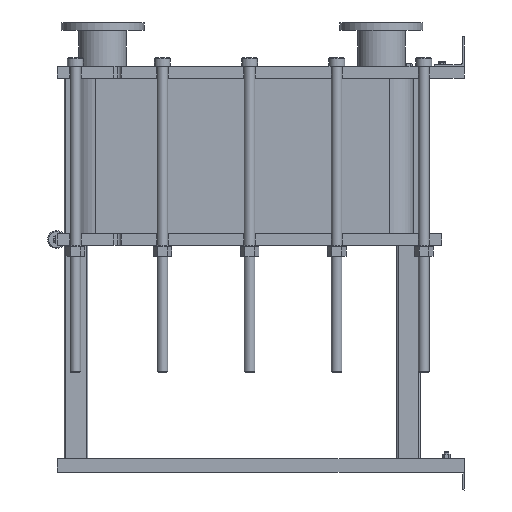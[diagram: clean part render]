
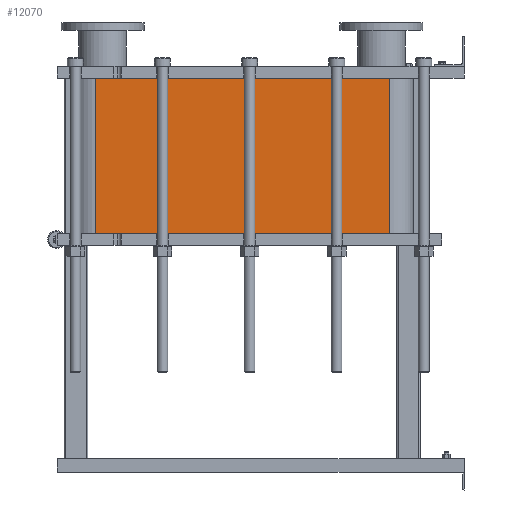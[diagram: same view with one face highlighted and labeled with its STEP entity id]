
A CAD part, left-side view. The second image highlights one B-rep face of the part: STEP entity #12070.
In plain terms, the highlighted planar face has unit normal (-1, 0, 0).
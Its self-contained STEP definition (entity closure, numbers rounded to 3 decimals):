
#1064=LINE('',#21140,#2164);
#1065=LINE('',#21144,#2165);
#1066=LINE('',#21146,#2166);
#1067=LINE('',#21147,#2167);
#2164=VECTOR('',#15790,10.);
#2165=VECTOR('',#15795,10.);
#2166=VECTOR('',#15796,10.);
#2167=VECTOR('',#15797,10.);
#3304=FACE_OUTER_BOUND('',#4091,.T.);
#4091=EDGE_LOOP('',(#9793,#9794,#9795,#9796));
#5677=VERTEX_POINT('',#21137);
#5678=VERTEX_POINT('',#21139);
#5679=VERTEX_POINT('',#21143);
#5680=VERTEX_POINT('',#21145);
#7118=EDGE_CURVE('',#5678,#5677,#1064,.T.);
#7120=EDGE_CURVE('',#5677,#5679,#1065,.T.);
#7121=EDGE_CURVE('',#5680,#5679,#1066,.T.);
#7122=EDGE_CURVE('',#5680,#5678,#1067,.T.);
#9793=ORIENTED_EDGE('',*,*,#7120,.T.);
#9794=ORIENTED_EDGE('',*,*,#7121,.F.);
#9795=ORIENTED_EDGE('',*,*,#7122,.T.);
#9796=ORIENTED_EDGE('',*,*,#7118,.T.);
#11441=PLANE('',#13191);
#12070=ADVANCED_FACE('',(#3304),#11441,.T.);
#13191=AXIS2_PLACEMENT_3D('',#21142,#15793,#15794);
#15790=DIRECTION('',(0.,0.,-1.));
#15793=DIRECTION('center_axis',(-1.,0.,0.));
#15794=DIRECTION('ref_axis',(0.,1.,0.));
#15795=DIRECTION('',(0.,-1.,0.));
#15796=DIRECTION('',(0.,0.,-1.));
#15797=DIRECTION('',(0.,1.,0.));
#21137=CARTESIAN_POINT('',(-248.152,1243.818,-524.4));
#21139=CARTESIAN_POINT('',(-248.152,1243.818,0.));
#21140=CARTESIAN_POINT('',(-248.152,1243.818,0.));
#21142=CARTESIAN_POINT('Origin',(-248.152,251.818,0.));
#21143=CARTESIAN_POINT('',(-248.152,251.818,-524.4));
#21144=CARTESIAN_POINT('',(-248.152,499.818,-524.4));
#21145=CARTESIAN_POINT('',(-248.152,251.818,0.));
#21146=CARTESIAN_POINT('',(-248.152,251.818,0.));
#21147=CARTESIAN_POINT('',(-248.152,251.818,0.));
